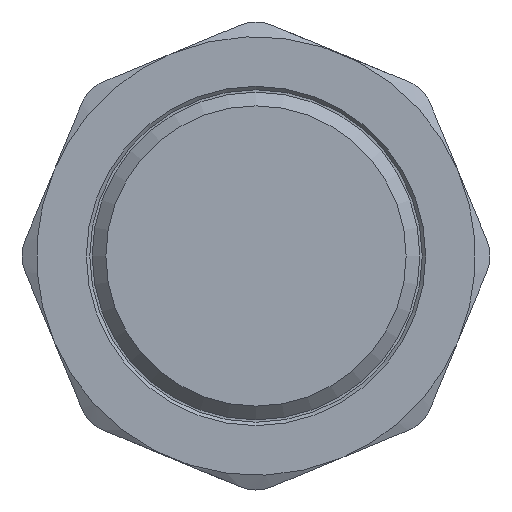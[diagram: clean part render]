
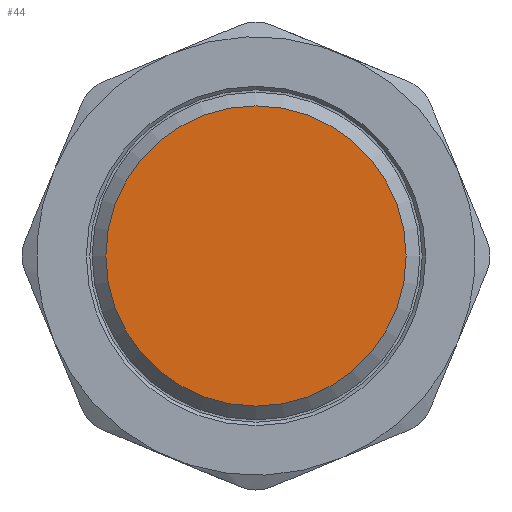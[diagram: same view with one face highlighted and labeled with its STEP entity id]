
A CAD part, front view. The second image highlights one B-rep face of the part: STEP entity #44.
In plain terms, the highlighted planar face has unit normal (0, -1, 0).
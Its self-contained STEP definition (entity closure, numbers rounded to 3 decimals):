
#44=ADVANCED_FACE('',(#105),#107,.F.);
#105=FACE_BOUND('',#106,.T.);
#106=EDGE_LOOP('',(#550));
#107=PLANE('',#108);
#108=AXIS2_PLACEMENT_3D('',#109,#110,#111);
#109=CARTESIAN_POINT('',(0.,0.,0.));
#110=DIRECTION('',(0.,1.,0.));
#111=DIRECTION('',(-1.,0.,0.));
#550=ORIENTED_EDGE('',*,*,#852,.T.);
#852=EDGE_CURVE('',#1003,#1003,#1004,.T.);
#1003=VERTEX_POINT('',#1256);
#1004=CIRCLE('',#1257,21.902);
#1256=CARTESIAN_POINT('',(-21.902,0.,0.));
#1257=AXIS2_PLACEMENT_3D('',#1258,#1259,#1260);
#1258=CARTESIAN_POINT('',(0.,0.,0.));
#1259=DIRECTION('',(0.,-1.,0.));
#1260=DIRECTION('',(-1.,0.,0.));
